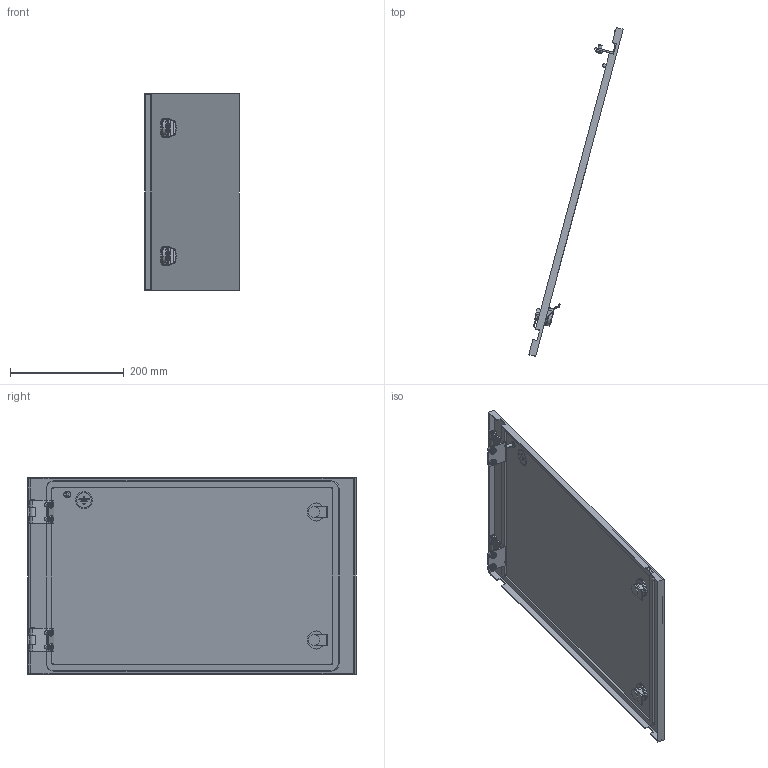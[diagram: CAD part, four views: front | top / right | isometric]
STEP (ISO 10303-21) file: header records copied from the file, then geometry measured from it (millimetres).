
FILE_DESCRIPTION (( 'STEP AP214' ), '1' );
FILE_NAME ('FO-00-ESD-035-060 Äâåðü ñåêöèîííàÿ âíåøíÿÿ 350x600 ìì.STEP', '2025-08-20T06:16:48', ( '' ), ( '' ), 'SwSTEP 2.0', 'SolidWorks 2023', '' );
FILE_SCHEMA (( 'AUTOMOTIVE_DESIGN' ));
Length unit declared in the file: millimetre
Products named in the file (4): FO-00-ESD-035-060 Дверь секционная внешняя 350x600 мм; Дверь секционная внешняя 350×600 мм.STEP; FO-00-ESD-035-060 Дверь секционная внешняя 350x600 мм.STEP; Петля_4.STEP
Assembly tree (4 placements, depth 3):
  FO-00-ESD-035-060 Дверь секционная внешняя 350x600 мм
    FO-00-ESD-035-060 Дверь секционная внешняя 350x600 мм.STEP
      Дверь секционная внешняя 350×600 мм.STEP
      Петля_4.STEP  x2
Bounding box: 165.93 x 578 x 346 mm (x, y, z)
Volume: 563512 mm3; surface area: 491399.6 mm2
Topology: 3 solids, 12 shells, 707 faces, 1809 edges, 1168 vertices
Faces by surface type: plane 343, cylinder 268, torus 34, cone 32, bspline 30
Entity records: 20694 total; most frequent: CARTESIAN_POINT 5778, ORIENTED_EDGE 3108, DIRECTION 3078, EDGE_CURVE 1554, AXIS2_PLACEMENT_3D 1056, VERTEX_POINT 1006, LINE 966, VECTOR 966
